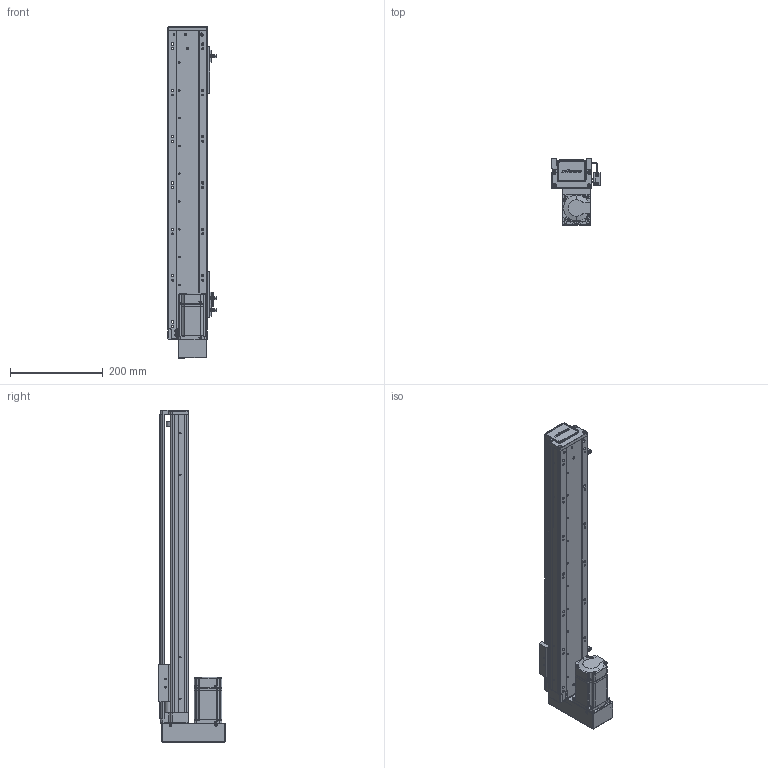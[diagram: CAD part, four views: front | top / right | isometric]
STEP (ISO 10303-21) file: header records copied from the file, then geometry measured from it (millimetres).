
FILE_DESCRIPTION (( 'STEP AP203' ), '1' );
FILE_NAME ('RY80-L1620-300-BK.SLDASM_500.step', '2021-02-20T07:10:41', ( '盈信电脑' ), ( '东莞市道滘镇水果街19号' ), 'SwSTEP 2.0', 'SolidWorks 2012', '' );
FILE_SCHEMA (( 'CONFIG_CONTROL_DESIGN' ));
Products named in the file (15): RY80-L1620-300-BK.SLDASM_500; 侂狟200W萇儂; 滅袉蝶18-24; RY80狟殏萇儂假蚾啣; RY80狟殏俋欶; 覜茼ん672; 1; RY80俋离覜茼え; RY80转接电机端支撑座; T倰羞; RY80綴裔啣; RY80-300蛌諉倰第奻裔啣-BK_500; 滅袉蝶18-10; RY80臏賑輸; RY80-300蛌諉倰第菁釱-BK_500
Assembly tree (17 placements, depth 3):
  RY80-L1620-300-BK.SLDASM_500
    RY80-300蛌諉倰第菁釱-BK_500
    RY80臏賑輸
    RY80-300蛌諉倰第奻裔啣-BK_500
    RY80綴裔啣
    滅袉蝶18-10
    T倰羞  x2
    覜茼ん672  x3
    RY80俋离覜茼え
    RY80转接电机端支撑座
    侂狟200W萇儂
      1
    RY80狟殏萇儂假蚾啣
    RY80狟殏俋欶
    滅袉蝶18-24
Bounding box: 103.7 x 144 x 717 mm (x, y, z)
Volume: 1483808.4 mm3; surface area: 573989.6 mm2
Topology: 16 solids, 16 shells, 2171 faces, 5997 edges, 3887 vertices
Faces by surface type: plane 1172, cylinder 802, cone 135, bspline 62
Entity records: 69433 total; most frequent: CARTESIAN_POINT 17994, ORIENTED_EDGE 10690, DIRECTION 9892, EDGE_CURVE 5345, VERTEX_POINT 3503, AXIS2_PLACEMENT_3D 3307, VECTOR 3278, LINE 3278
